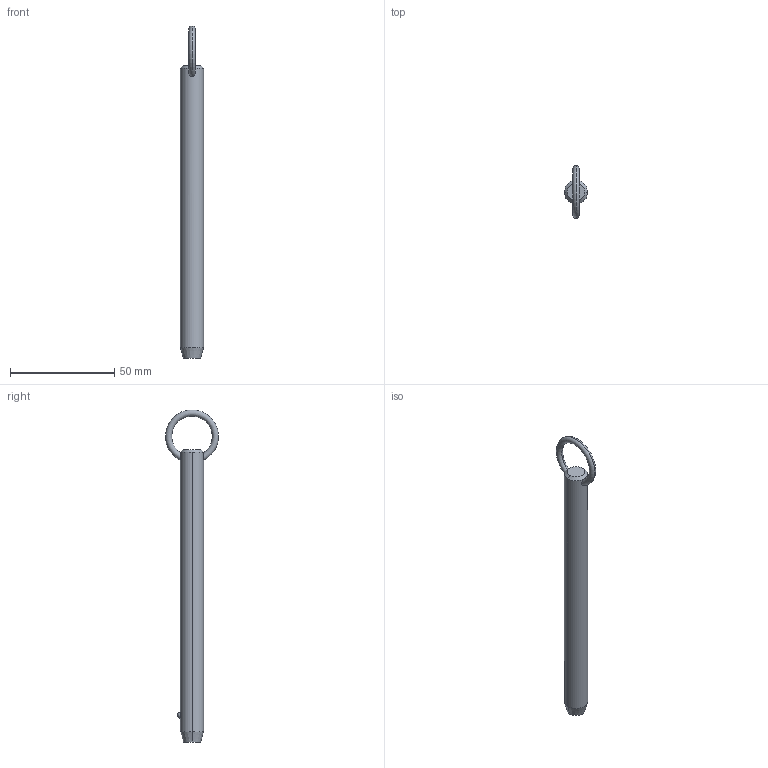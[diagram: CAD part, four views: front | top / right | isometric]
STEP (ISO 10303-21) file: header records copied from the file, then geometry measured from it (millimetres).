
FILE_DESCRIPTION (( 'STEP AP203' ), '1' );
FILE_NAME ('P1250.050-470.step', '2019-07-29T20:37:49', ( '' ), ( '' ), 'SwSTEP 2.0', 'SolidWorks 2017', '' );
FILE_SCHEMA (( 'CONFIG_CONTROL_DESIGN' ));
Length unit declared in the file: millimetre
Products named in the file (1): P1250.050-470
Bounding box: 11.1 x 25.32 x 158.95 mm (x, y, z)
Volume: 13830.4 mm3; surface area: 5534.7 mm2
Topology: 1 solids, 1 shells, 12 faces, 28 edges, 17 vertices
Faces by surface type: cone 4, torus 2, sphere 2, cylinder 2, plane 2
Entity records: 523 total; most frequent: CARTESIAN_POINT 190, DIRECTION 56, ORIENTED_EDGE 48, AXIS2_PLACEMENT_3D 25, EDGE_CURVE 24, EDGE_LOOP 15, VERTEX_POINT 15, FACE_OUTER_BOUND 12
